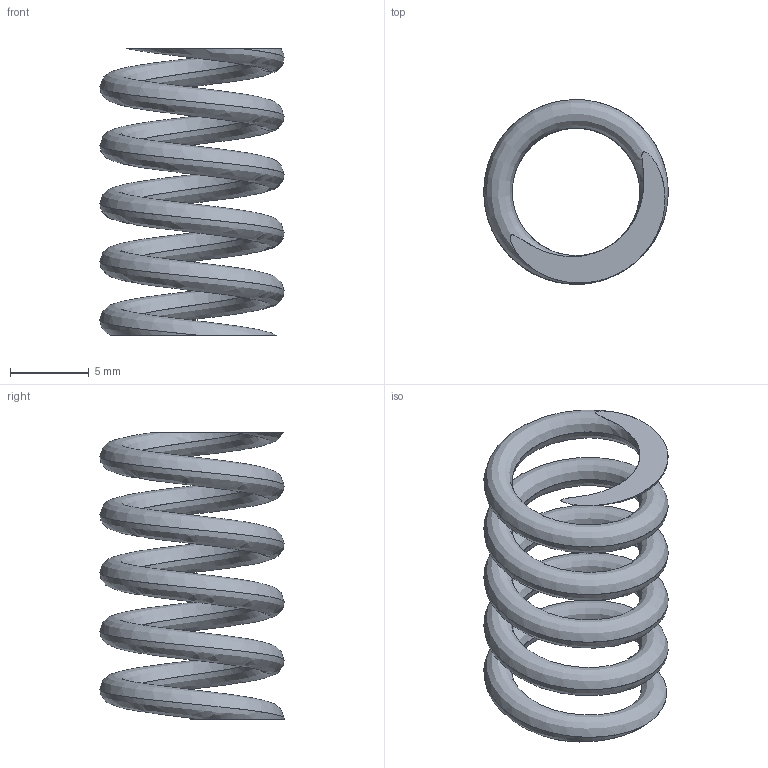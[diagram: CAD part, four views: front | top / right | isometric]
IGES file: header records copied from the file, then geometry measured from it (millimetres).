
Start section: SolidWorks IGES FILE using analytic representation for surfaces
Global section: file name: C:\Documents and Settings\lecoutey\Bureau\GP 30\22.230.10.IGS; native system: SolidWorks 2004 by SolidWorks Corporation; preprocessor: Version 5.3; author: lecoutey; date: 050329.142915; units: millimetre
Bounding box: 11.7 x 11.7 x 18.2 mm (x, y, z)
Surface area: 915.2 mm2 (no closed solid volume)
Topology: 0 solids, 0 shells, 5 faces, 182 edges, 182 vertices
Faces by surface type: bspline 5
